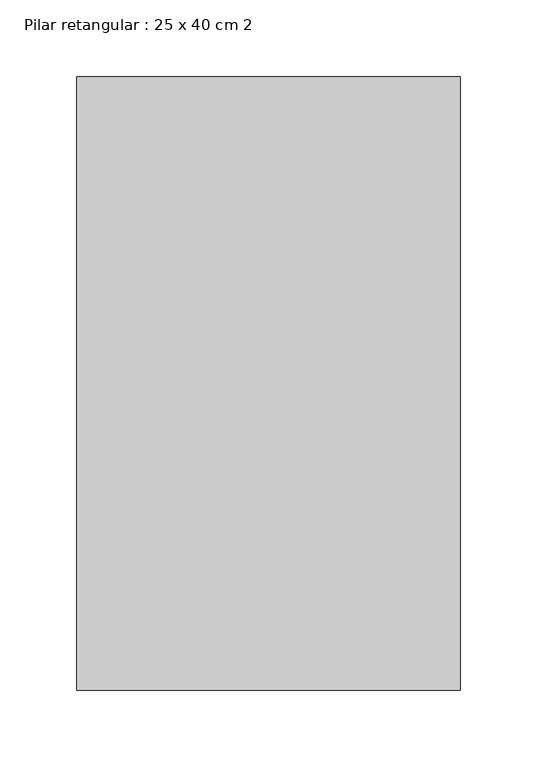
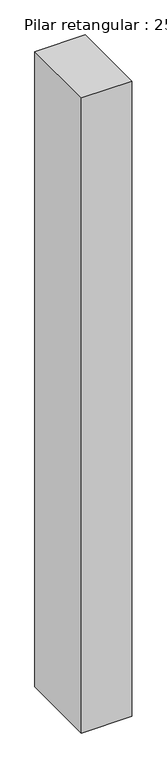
"""IFC4 building model written with IfcOpenShell, lengths in millimetres: column geometry, Pilar retangular : 25 x 40 cm 2."""

from ifc_helpers import new_model, si_unit, origin, origin_with_axes, place, context, project, spatial, polyline, outline, extrude, source, transform, mapped, element, save


def pilar_retangular_25_x_40_cm_2_35bef809(model_context):
    return source(origin(), model_context, "Body", "SweptSolid", [
        extrude(outline(polyline([(125.0, 200.0), (125.0, -200.0), (-125.0, -200.0), (-125.0, 200.0), (125.0, 200.0)])), origin_with_axes(), (0.0, 0.0, 1.0), 3340.0),
    ])


if __name__ == "__main__":
    model = new_model("IFC4")
    model_context = context("Model", 3, world=origin())
    ifc_project = project(units=[si_unit("LENGTHUNIT", "METRE", prefix="MILLI")], contexts=[model_context])
    site = spatial("IfcSite", under=ifc_project)
    building = spatial("IfcBuilding", under=site)
    placement = place(None, origin())
    pilar_retangular_25_x_40_cm_2_shape = pilar_retangular_25_x_40_cm_2_35bef809(model_context)
    element("IfcColumn", 1, ObjectType="Pilar retangular : 25 x 40 cm 2", at=placement, inside=building, context=model_context, shape_type="MappedRepresentation", body=[
        mapped(pilar_retangular_25_x_40_cm_2_shape, transform((0.0, 0.0, 0.0), x_axis=(1.0, 0.0, 0.0), y_axis=(0.0, 1.0, 0.0), z_axis=(0.0, 0.0, 1.0))),
    ])
    save(model, "model.ifc")
